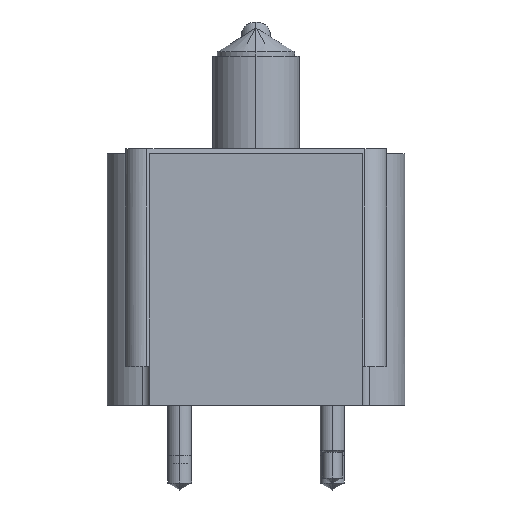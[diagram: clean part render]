
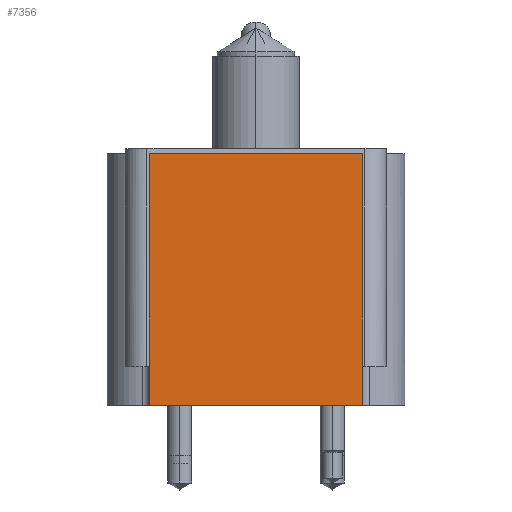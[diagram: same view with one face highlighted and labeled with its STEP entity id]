
A CAD part, left-side view. The second image highlights one B-rep face of the part: STEP entity #7356.
In plain terms, the highlighted planar face has unit normal (-1, 0, 0).
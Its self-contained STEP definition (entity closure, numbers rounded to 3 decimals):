
#6988=CARTESIAN_POINT('',(-84.201,34.988,82.55));
#6989=VERTEX_POINT('',#6988);
#6996=CARTESIAN_POINT('',(-84.201,-34.988,82.55));
#6997=VERTEX_POINT('',#6996);
#6998=CARTESIAN_POINT('',(-84.201,0.0,82.55));
#6999=DIRECTION('',(0.0,1.0,0.0));
#7000=VECTOR('',#6999,1.0);
#7001=LINE('',#6998,#7000);
#7002=EDGE_CURVE('',#6997,#6989,#7001,.T.);
#7326=CARTESIAN_POINT('',(-84.201,34.988,0.0));
#7327=VERTEX_POINT('',#7326);
#7328=CARTESIAN_POINT('',(-84.201,34.988,0.0));
#7329=DIRECTION('',(0.0,0.0,1.0));
#7330=VECTOR('',#7329,1.0);
#7331=LINE('',#7328,#7330);
#7332=EDGE_CURVE('',#7327,#6989,#7331,.T.);
#7333=ORIENTED_EDGE('',*,*,#7332,.F.);
#7334=CARTESIAN_POINT('',(-84.201,-34.988,0.0));
#7335=VERTEX_POINT('',#7334);
#7336=CARTESIAN_POINT('',(-84.201,0.0,0.0));
#7337=DIRECTION('',(0.0,-1.0,0.0));
#7338=VECTOR('',#7337,1.0);
#7339=LINE('',#7336,#7338);
#7340=EDGE_CURVE('',#7327,#7335,#7339,.T.);
#7341=ORIENTED_EDGE('',*,*,#7340,.T.);
#7342=CARTESIAN_POINT('',(-84.201,-34.988,0.0));
#7343=DIRECTION('',(0.0,0.0,-1.0));
#7344=VECTOR('',#7343,1.0);
#7345=LINE('',#7342,#7344);
#7346=EDGE_CURVE('',#6997,#7335,#7345,.T.);
#7347=ORIENTED_EDGE('',*,*,#7346,.F.);
#7348=ORIENTED_EDGE('',*,*,#7002,.T.);
#7349=EDGE_LOOP('',(#7333,#7341,#7347,#7348));
#7350=FACE_OUTER_BOUND('',#7349,.T.);
#7351=CARTESIAN_POINT('',(-84.201,0.0,0.0));
#7352=DIRECTION('',(-1.0,0.0,-0.0));
#7353=DIRECTION('',(-0.0,0.0,1.0));
#7354=AXIS2_PLACEMENT_3D('',#7351,#7352,#7353);
#7355=PLANE('',#7354);
#7356=ADVANCED_FACE('',(#7350),#7355,.T.);
